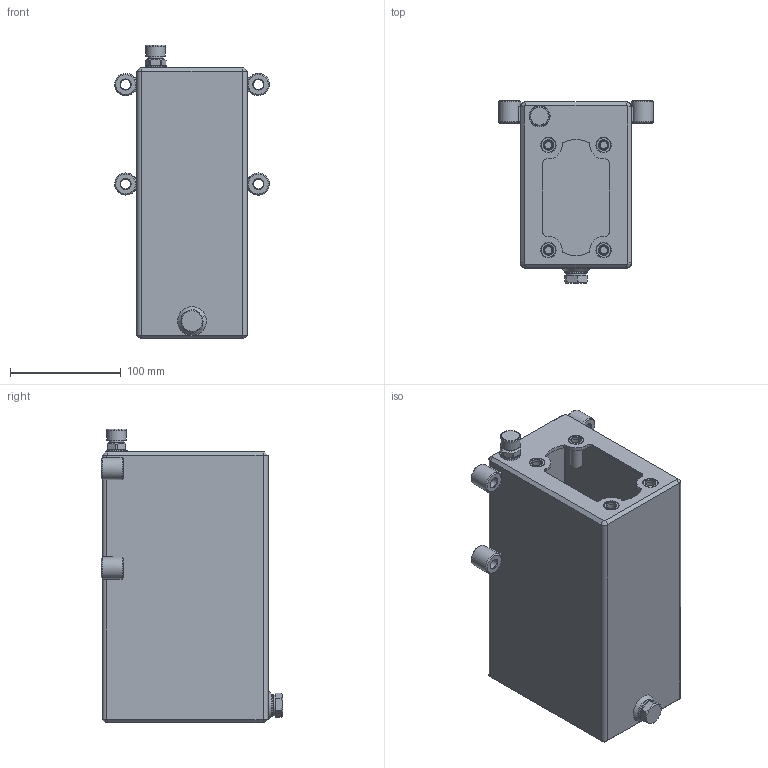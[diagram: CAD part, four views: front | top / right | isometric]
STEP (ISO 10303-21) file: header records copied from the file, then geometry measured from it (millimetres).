
FILE_DESCRIPTION(/* description */ ('Unknown'),/* implementation_level */ '2;1');
FILE_NAME(/* name */ 'SR03FE',/* time_stamp */ '2024-11-28T09:36:45+01:00',/* author */ ('Unknown'),/* organization */ ('Unknown'),/* preprocessor_version */ 'ST-DEVELOPER v19.4',/* originating_system */ 'Solid Edge',/* authorisation */ 'Unknown');
FILE_SCHEMA (('AUTOMOTIVE_DESIGN {1 0 10303 214 3 1 1}'));
Length unit declared in the file: millimetre
Products named in the file (1): SR03FE
Bounding box: 140 x 164.5 x 265.6 mm (x, y, z)
Volume: 448534.4 mm3; surface area: 298902 mm2
Topology: 2 solids, 2 shells, 267 faces, 630 edges, 391 vertices
Faces by surface type: plane 129, cylinder 73, cone 46, torus 19
Full cylindrical faces by diameter (mm): 5.8 x1, 6.647 x8, 9 x4, 9.15 x4, 10.5 x1, 10.88 x4, 10.9 x4, 13.157 x1, 13.2 x4, 13.5 x1, 15 x1, 16.8 x1, 17 x1, 18 x1, 19 x2, 20 x6, 20.1 x1
Entity records: 8645 total; most frequent: DIRECTION 1247, CARTESIAN_POINT 1170, ORIENTED_EDGE 972, AXIS2_PLACEMENT_3D 507, EDGE_CURVE 486, EDGE_LOOP 406, FACE_BOUND 406, VERTEX_POINT 348
